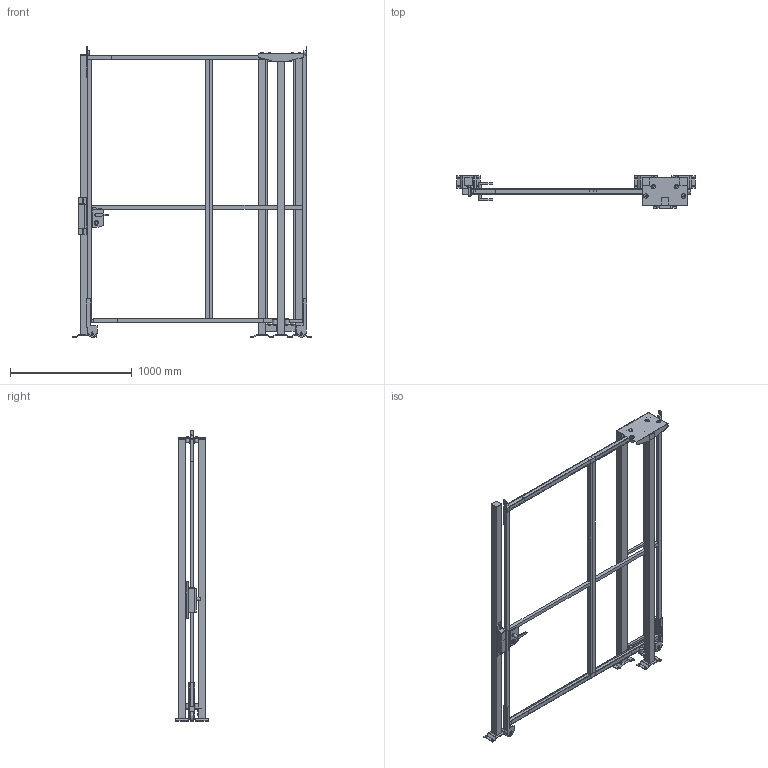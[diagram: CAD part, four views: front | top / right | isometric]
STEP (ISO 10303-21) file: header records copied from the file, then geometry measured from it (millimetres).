
FILE_DESCRIPTION(/* description */ (''),/* implementation_level */ '2;1');
FILE_NAME(/* name */ 'C:\SafeGuarding\ELABORATI\KLADKOUGAMMA_2025-03-21-09-04-10.stp',/* time_stamp */ '2025-03-21T09:04:12+01:00',/* author */ ('admin'),/* organization */ (''),/* preprocessor_version */ 'ST-DEVELOPER v18.1',/* originating_system */ 'AutoCAD Mechanical',/* authorisation */ '');
FILE_SCHEMA (('AUTOMOTIVE_DESIGN { 1 0 10303 214 3 1 1 }'));
Length unit declared in the file: millimetre
Products named in the file (5): Product; R_VFPA.REPE30.08002200; R_VFPA.REPE30.10002200; R_VFPA.REPE20.02502200; P_VFMA.V260SDU.2320
Assembly tree (7 placements, depth 2):
  Product
    R_VFPA.REPE30.08002200
    R_VFPA.REPE30.10002200
    P_VFMA.V260SDU.2320  x4
    R_VFPA.REPE20.02502200
Bounding box: 1961.92 x 264 x 2390.02 mm (x, y, z)
Volume: 52423157.4 mm3; surface area: 6792288.9 mm2
Topology: 67 solids, 67 shells, 602 faces, 1716 edges, 1664 vertices
Faces by surface type: plane 524, cylinder 74, bspline 4
Full cylindrical faces by diameter (mm): 9 x4, 11 x16, 13 x4, 18 x1, 25 x2, 25.398 x2, 30 x6, 36 x8, 80 x2
Entity records: 17849 total; most frequent: CARTESIAN_POINT 4622, DIRECTION 2636, ORIENTED_EDGE 2350, LINE 1196, VECTOR 1196, EDGE_CURVE 1175, VERTEX_POINT 790, AXIS2_PLACEMENT_3D 720
